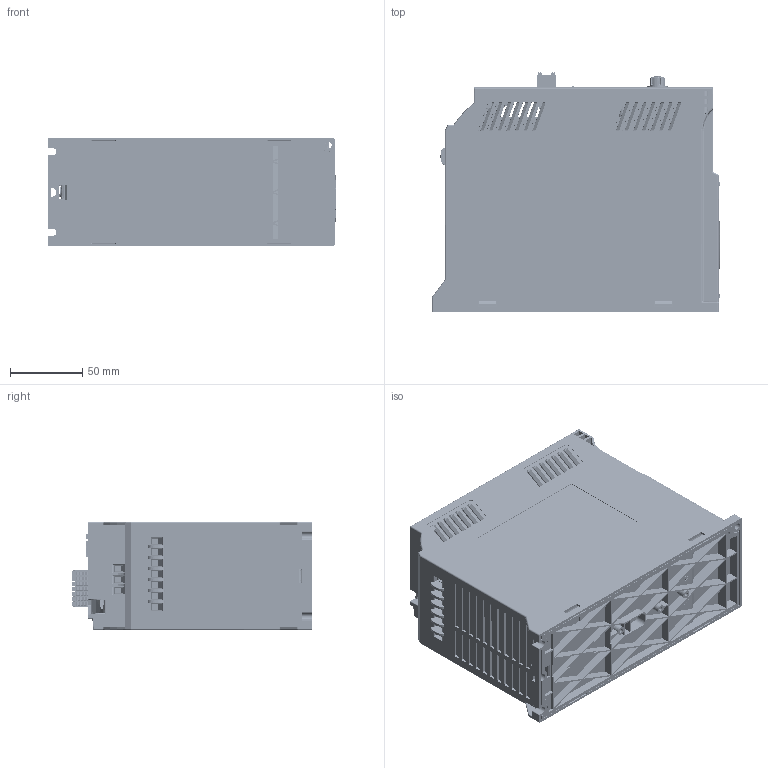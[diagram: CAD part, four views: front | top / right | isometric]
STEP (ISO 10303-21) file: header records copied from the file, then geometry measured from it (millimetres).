
FILE_DESCRIPTION (( 'STEP AP214' ), '1' );
FILE_NAME ('KC100 2S2R2 蜊傷赽240572602.STEP', '2024-07-26T01:16:54', ( '' ), ( '' ), 'SwSTEP 2.0', 'SolidWorks 2020', '' );
FILE_SCHEMA (( 'AUTOMOTIVE_DESIGN' ));
Length unit declared in the file: millimetre
Products named in the file (1): KC100   2S2R2  蜊傷赽240572602
Bounding box: 200 x 167.05 x 75 mm (x, y, z)
Volume: 1940311.6 mm3; surface area: 305613.7 mm2
Topology: 41 solids, 55 shells, 10104 faces, 26169 edges, 16625 vertices
Faces by surface type: plane 6183, cylinder 2471, bspline 1347, cone 95, torus 8
Entity records: 490681 total; most frequent: CARTESIAN_POINT 146040, ORIENTED_EDGE 52188, DIRECTION 41829, EDGE_CURVE 26094, VECTOR 17527, LINE 17527, VERTEX_POINT 16625, AXIS2_PLACEMENT_3D 12151
